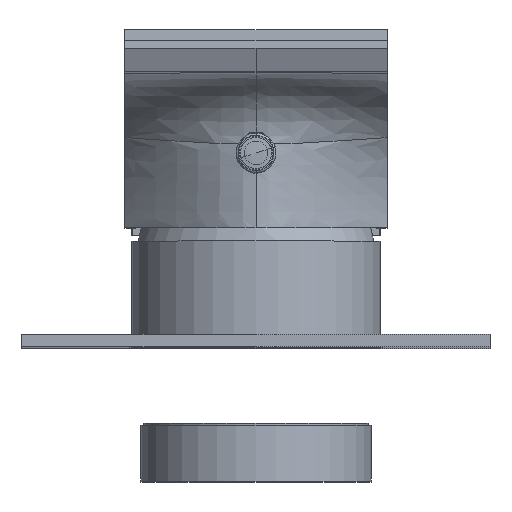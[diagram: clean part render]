
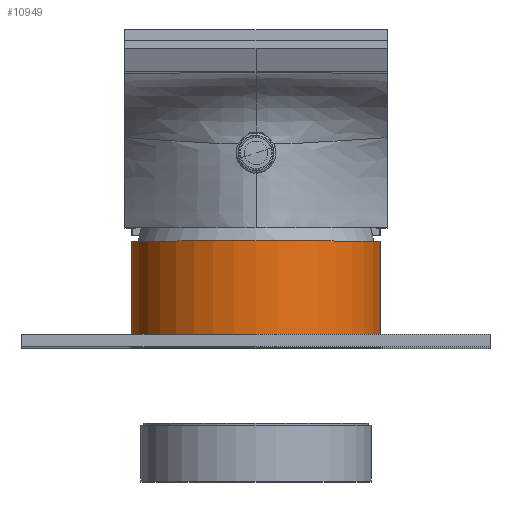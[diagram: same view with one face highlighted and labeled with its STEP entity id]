
A CAD part, top view. The second image highlights one B-rep face of the part: STEP entity #10949.
In plain terms, the highlighted cylindrical face has radius 20 mm (diameter 40 mm), a partial arc.
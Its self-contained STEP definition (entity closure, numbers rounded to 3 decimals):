
#9317=CARTESIAN_POINT('',(0.,24.5,0.));
#9318=DIRECTION('',(0.,1.,0.));
#9319=DIRECTION('',(-1.,0.,0.));
#9320=AXIS2_PLACEMENT_3D('',#9317,#9318,#9319);
#9322=DIRECTION('',(0.,1.,0.));
#9323=VECTOR('',#9322,17.);
#9324=CARTESIAN_POINT('',(-20.,24.5,0.));
#9325=LINE('',#9324,#9323);
#9326=DIRECTION('',(0.,1.,0.));
#9327=VECTOR('',#9326,17.);
#9328=CARTESIAN_POINT('',(20.,24.5,0.));
#9329=LINE('',#9328,#9327);
#9330=CARTESIAN_POINT('',(0.,41.5,0.));
#9331=DIRECTION('',(0.,-1.,0.));
#9332=DIRECTION('',(1.,0.,0.));
#9333=AXIS2_PLACEMENT_3D('',#9330,#9331,#9332);
#10838=CARTESIAN_POINT('',(20.,41.5,0.));
#10839=CARTESIAN_POINT('',(-20.,41.5,0.));
#10840=VERTEX_POINT('',#10838);
#10841=VERTEX_POINT('',#10839);
#10896=CARTESIAN_POINT('',(20.,24.5,0.));
#10897=CARTESIAN_POINT('',(-20.,24.5,0.));
#10898=VERTEX_POINT('',#10896);
#10899=VERTEX_POINT('',#10897);
#10937=CARTESIAN_POINT('',(0.,-2.075,0.));
#10938=DIRECTION('',(0.,1.,0.));
#10939=DIRECTION('',(1.,0.,0.));
#10940=AXIS2_PLACEMENT_3D('',#10937,#10938,#10939);
#10941=CYLINDRICAL_SURFACE('',#10940,20.);
#10942=ORIENTED_EDGE('',*,*,#10926,.F.);
#10943=ORIENTED_EDGE('',*,*,#10915,.T.);
#10945=ORIENTED_EDGE('',*,*,#10944,.F.);
#10946=ORIENTED_EDGE('',*,*,#10911,.F.);
#10947=EDGE_LOOP('',(#10942,#10943,#10945,#10946));
#10948=FACE_OUTER_BOUND('',#10947,.F.);
#10949=ADVANCED_FACE('',(#10948),#10941,.T.);
#9321=CIRCLE('',#9320,20.);
#9334=CIRCLE('',#9333,20.);
#10911=EDGE_CURVE('',#10898,#10840,#9329,.T.);
#10915=EDGE_CURVE('',#10899,#10841,#9325,.T.);
#10926=EDGE_CURVE('',#10899,#10898,#9321,.T.);
#10944=EDGE_CURVE('',#10840,#10841,#9334,.T.);
